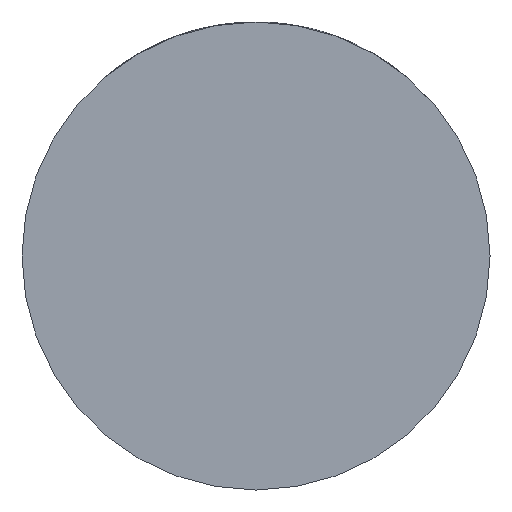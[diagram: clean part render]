
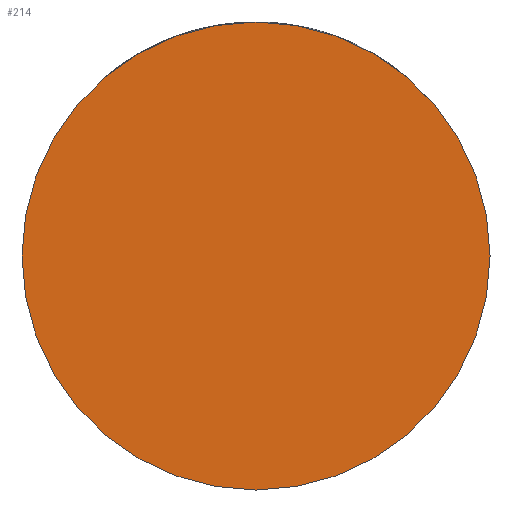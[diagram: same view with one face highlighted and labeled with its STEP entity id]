
A CAD part, front view. The second image highlights one B-rep face of the part: STEP entity #214.
In plain terms, the highlighted planar face has unit normal (0, -1, 0).
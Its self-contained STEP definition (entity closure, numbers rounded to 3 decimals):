
#106 = AXIS2_PLACEMENT_3D ( 'NONE', #1430, #4523, #1372 ) ;
#214 = ADVANCED_FACE ( 'NONE', ( #3758 ), #4532, .T. ) ;
#246 = CIRCLE ( 'NONE', #2582, 29.5 ) ;
#347 = EDGE_CURVE ( 'NONE', #357, #533, #3996, .T. ) ;
#357 = VERTEX_POINT ( 'NONE', #686 ) ;
#533 = VERTEX_POINT ( 'NONE', #2166 ) ;
#606 = EDGE_LOOP ( 'NONE', ( #2169, #4317 ) ) ;
#686 = CARTESIAN_POINT ( 'NONE',  ( -29.5, -33., 0. ) ) ;
#1268 = DIRECTION ( 'NONE',  ( 1., 0., 0. ) ) ;
#1365 = DIRECTION ( 'NONE',  ( 1., 0., 0. ) ) ;
#1372 = DIRECTION ( 'NONE',  ( 1., 0., 0. ) ) ;
#1430 = CARTESIAN_POINT ( 'NONE',  ( 0., -33., 0. ) ) ;
#2166 = CARTESIAN_POINT ( 'NONE',  ( 29.5, -33., 0. ) ) ;
#2169 = ORIENTED_EDGE ( 'NONE', *, *, #347, .T. ) ;
#2582 = AXIS2_PLACEMENT_3D ( 'NONE', #4420, #2959, #1268 ) ;
#2959 = DIRECTION ( 'NONE',  ( 0., -1., 0. ) ) ;
#3634 = AXIS2_PLACEMENT_3D ( 'NONE', #4447, #3796, #1365 ) ;
#3758 = FACE_OUTER_BOUND ( 'NONE', #606, .T. ) ;
#3796 = DIRECTION ( 'NONE',  ( 0., -1., 0. ) ) ;
#3996 = CIRCLE ( 'NONE', #106, 29.5 ) ;
#4317 = ORIENTED_EDGE ( 'NONE', *, *, #4337, .T. ) ;
#4337 = EDGE_CURVE ( 'NONE', #533, #357, #246, .T. ) ;
#4420 = CARTESIAN_POINT ( 'NONE',  ( 0., -33., 0. ) ) ;
#4447 = CARTESIAN_POINT ( 'NONE',  ( 0., -33., 0. ) ) ;
#4523 = DIRECTION ( 'NONE',  ( 0., -1., 0. ) ) ;
#4532 = PLANE ( 'NONE',  #3634 ) ;
